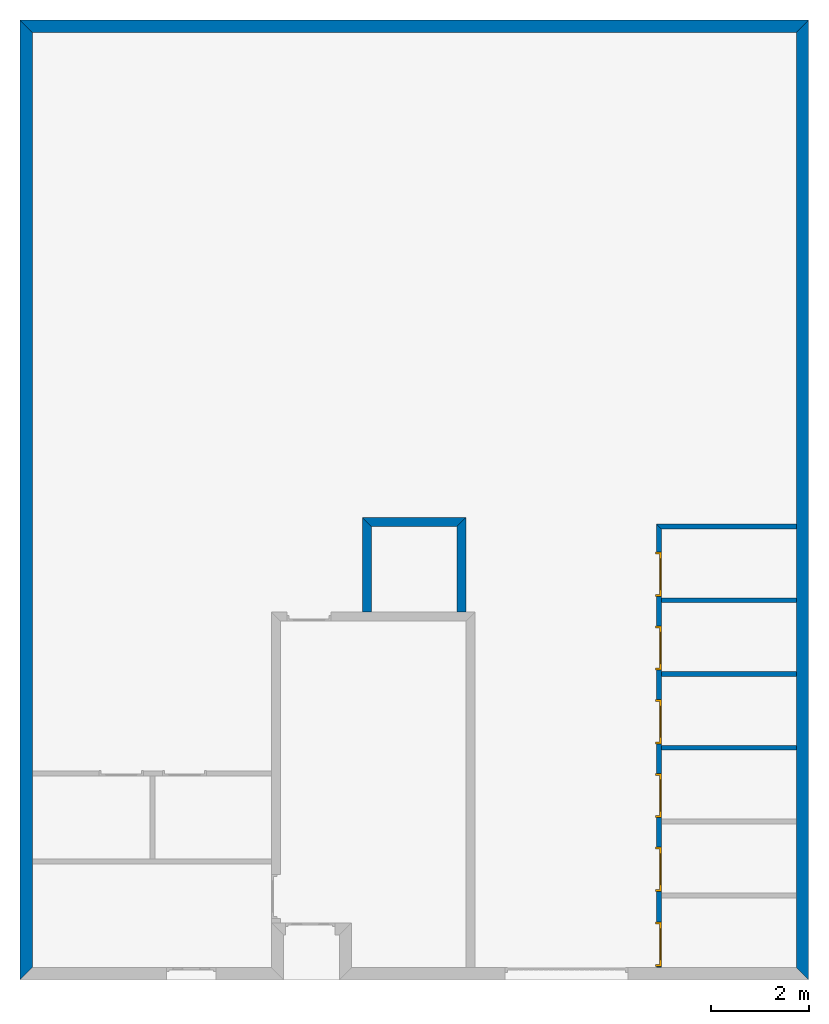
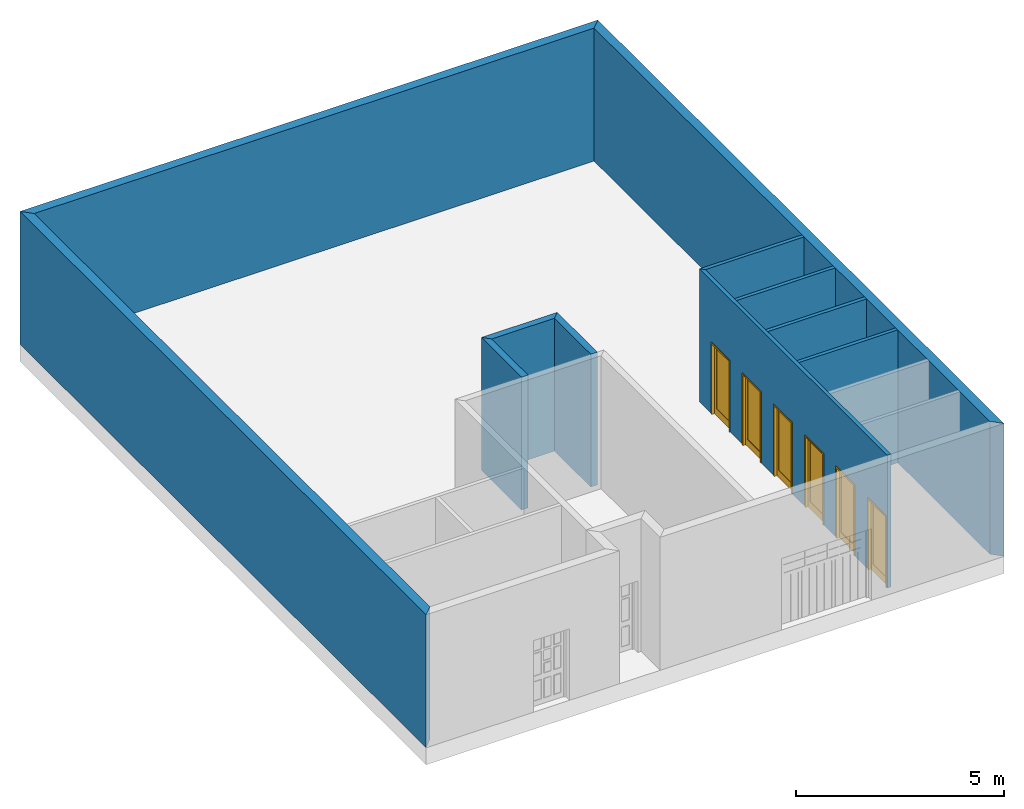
# One storey, part 2 of 5: 11 walls, 6 doors, 6 openings.
"""IFC2X3 building model written with IfcOpenShell, lengths in metres."""

from ifc_helpers import new_model, entity, si_unit, converted_unit, direction, frame, frame_2d, origin_with_axes, place, context, project, spatial, polyline, rectangle, outline, extrude, faceted_brep, source, transform, mapped, material, layer, layer_set, layer_usage, type_object, element, fill, save


model = new_model("IFC2X3")

# Units and contexts
context_of_model = context(None, 3, precision=1e-05, world=origin_with_axes(), true_north=direction((6.123234e-17, 1.0)))
plan_context = context("Plan", 3, precision=1e-05, world=origin_with_axes(), true_north=direction((6.123234e-17, 1.0)))
model_context = context("Model", 3, precision=1e-05, world=origin_with_axes(), true_north=direction((6.123234e-17, 1.0)))
ifc_project = project(units=[si_unit("LENGTHUNIT", "METRE"), si_unit("AREAUNIT", "SQUARE_METRE"), si_unit("VOLUMEUNIT", "CUBIC_METRE"), converted_unit("PLANEANGLEUNIT", "DEGREE", entity("IfcPlaneAngleMeasure", 0.017453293), si_unit("PLANEANGLEUNIT", "RADIAN"), dimensions=[0, 0, 0, 0, 0, 0, 0]), si_unit("SOLIDANGLEUNIT", "STERADIAN"), si_unit("MASSUNIT", "GRAM"), si_unit("TIMEUNIT", "SECOND"), si_unit("THERMODYNAMICTEMPERATUREUNIT", "DEGREE_CELSIUS"), si_unit("LUMINOUSINTENSITYUNIT", "LUMEN")], contexts=[context_of_model, plan_context, model_context])

# Site, building, storey
site_placement = place(None, origin_with_axes())
site = spatial("IfcSite", under=ifc_project, at=site_placement, Name="Por defecto Sitio", CompositionType="ELEMENT")
building_placement = place(site_placement, origin_with_axes())
building = spatial("IfcBuilding", under=site, at=building_placement, Name="Por defecto Edificio", CompositionType="ELEMENT")
storey_placement = place(building_placement, origin_with_axes())
storey = spatial("IfcBuildingStorey", under=building, at=storey_placement, Name="Planta Baja", CompositionType="ELEMENT", Elevation=0.0)

# Walls
ifc_material_1 = material(Name="Doble 1:4")
ifc_layer_1 = layer(ifc_material_1, 0.25, ventilated="UNKNOWN")
ifc_layer_set_1 = layer_set([ifc_layer_1], Name="Doble 1:4")
ifc_layer_usage_1 = layer_usage(ifc_layer_set_1, "AXIS2", "NEGATIVE", 0.0)
wall_type_1 = type_object("IfcWallType", Name="Doble 1:4", PredefinedType="NOTDEFINED")
wall_1_placement = place(storey_placement, frame((0.0, 0.0, 0.0), z_axis=(0.0, 0.0, 1.0), x_axis=(0.0, 1.0, 0.0)))
element("IfcWallStandardCase", 1, at=wall_1_placement, inside=storey, type_object=wall_type_1, material=ifc_layer_usage_1, Name="Muro-001", context=context_of_model, shape_type="SweptSolid", body=[
    extrude(outline(polyline([(0.25, -0.25), (19.27, -0.25), (19.52, 0.0), (0.0, 0.0), (0.25, -0.25)])), origin_with_axes(), (0.0, 0.0, 1.0), 3.9),
])
ifc_layer_usage_2 = layer_usage(ifc_layer_set_1, "AXIS2", "NEGATIVE", 0.0)
wall_2_placement = place(storey_placement, frame((16.03417, 19.52, 0.0), z_axis=(0.0, 0.0, 1.0), x_axis=(0.0, -1.0, 0.0)))
element("IfcWallStandardCase", 2, at=wall_2_placement, inside=storey, type_object=wall_type_1, material=ifc_layer_usage_2, Name="Muro-003", context=context_of_model, shape_type="SweptSolid", body=[
    extrude(outline(polyline([(0.25, -0.25), (19.27, -0.25), (19.52, 0.0), (0.0, 0.0), (0.25, -0.25)])), origin_with_axes(), (0.0, 0.0, 1.0), 3.9),
])
ifc_material_2 = material(Name="Ladrillo común")
ifc_layer_2 = layer(ifc_material_2, 0.25, ventilated="UNKNOWN")
ifc_layer_set_2 = layer_set([ifc_layer_2], Name="Ladrillo común")
ifc_layer_usage_3 = layer_usage(ifc_layer_set_2, "AXIS2", "NEGATIVE", 0.0)
wall_type_2 = type_object("IfcWallType", Name="Ladrillo común", PredefinedType="NOTDEFINED")
wall_3_placement = place(storey_placement, frame((0.0, 19.52, 0.0), z_axis=(0.0, 0.0, 1.0), x_axis=(1.0, 0.0, 0.0)))
element("IfcWallStandardCase", 3, at=wall_3_placement, inside=storey, type_object=wall_type_2, material=ifc_layer_usage_3, Name="Muro-002", context=context_of_model, shape_type="SweptSolid", body=[
    extrude(outline(polyline([(0.25, -0.25), (15.78417, -0.25), (16.03417, 0.0), (0.0, 0.0), (0.25, -0.25)])), origin_with_axes(), (0.0, 0.0, 1.0), 3.9),
])
ifc_layer_3 = layer(ifc_material_2, 0.18, ventilated="UNKNOWN")
ifc_layer_set_3 = layer_set([ifc_layer_3], Name="Ladrillo común")
ifc_layer_usage_4 = layer_usage(ifc_layer_set_3, "AXIS2", "NEGATIVE", 0.0)
wall_type_3 = type_object("IfcWallType", Name="Ladrillo común", PredefinedType="NOTDEFINED")
wall_4_placement = place(storey_placement, frame((9.065, 9.4007615, 0.0), z_axis=(0.0, 0.0, 1.0), x_axis=(0.0, -1.0, 0.0)))
element("IfcWallStandardCase", 4, at=wall_4_placement, inside=storey, type_object=wall_type_3, material=ifc_layer_usage_4, Name="Muro-012", context=context_of_model, shape_type="SweptSolid", body=[
    extrude(outline(polyline([(0.18, -0.18), (1.9231052, -0.18), (1.9231052, 0.0), (0.0, 0.0), (0.18, -0.18)])), origin_with_axes(), (0.0, 0.0, 1.0), 3.9),
])
ifc_layer_usage_5 = layer_usage(ifc_layer_set_3, "AXIS2", "NEGATIVE", 0.0)
wall_5_placement = place(storey_placement, frame((6.965, 7.2976562, 0.0), z_axis=(0.0, 0.0, 1.0), x_axis=(0.0, 1.0, 0.0)))
element("IfcWallStandardCase", 5, at=wall_5_placement, inside=storey, type_object=wall_type_3, material=ifc_layer_usage_5, Name="Muro-011", context=context_of_model, shape_type="SweptSolid", body=[
    extrude(outline(polyline([(0.18, -0.18), (1.9231052, -0.18), (2.1031052, 0.0), (0.18, 8.8817842e-16), (0.18, -0.18)])), origin_with_axes(), (0.0, 0.0, 1.0), 3.9),
])
ifc_layer_usage_6 = layer_usage(ifc_layer_set_3, "AXIS2", "NEGATIVE", 0.0)
wall_6_placement = place(storey_placement, frame((6.965, 9.4007615, 0.0), z_axis=(0.0, 0.0, 1.0), x_axis=(1.0, 0.0, 0.0)))
element("IfcWallStandardCase", 6, at=wall_6_placement, inside=storey, type_object=wall_type_3, material=ifc_layer_usage_6, Name="Muro-012", context=context_of_model, shape_type="SweptSolid", body=[
    extrude(outline(polyline([(0.18, -0.18), (1.92, -0.18), (2.1, 0.0), (-8.8817842e-16, 0.0), (0.18, -0.18)])), origin_with_axes(), (0.0, 0.0, 1.0), 3.9),
])
ifc_layer_4 = layer(ifc_material_2, 0.1, ventilated="UNKNOWN")
ifc_layer_set_4 = layer_set([ifc_layer_4], Name="Ladrillo común")
ifc_layer_usage_7 = layer_usage(ifc_layer_set_4, "AXIS2", "POSITIVE", 0.0)
wall_type_4 = type_object("IfcWallType", Name="Ladrillo común", PredefinedType="NOTDEFINED")
wall_7_placement = place(storey_placement, frame((13.039317, 7.6720269, 0.0), z_axis=(0.0, 0.0, 1.0), x_axis=(1.0, 0.0, 0.0)))
element("IfcWallStandardCase", 7, at=wall_7_placement, inside=storey, type_object=wall_type_4, material=ifc_layer_usage_7, Name="Muro-024", context=context_of_model, shape_type="SweptSolid", body=[
    extrude(outline(polyline([(1.7763568e-14, 0.0), (2.7448525, 0.0), (2.7448525, 0.1), (1.7763568e-14, 0.1), (1.7763568e-14, 0.0)])), origin_with_axes(), (0.0, 0.0, 1.0), 3.9),
])
ifc_layer_usage_8 = layer_usage(ifc_layer_set_4, "AXIS2", "POSITIVE", 0.0)
wall_8_placement = place(storey_placement, frame((13.039317, 6.1720269, 0.0), z_axis=(0.0, 0.0, 1.0), x_axis=(1.0, 0.0, 0.0)))
element("IfcWallStandardCase", 8, at=wall_8_placement, inside=storey, type_object=wall_type_4, material=ifc_layer_usage_8, Name="Muro-023", context=context_of_model, shape_type="SweptSolid", body=[
    extrude(outline(polyline([(3.7303494e-14, 0.0), (2.7448525, 0.0), (2.7448525, 0.1), (3.5527137e-14, 0.1), (3.7303494e-14, 0.0)])), origin_with_axes(), (0.0, 0.0, 1.0), 3.9),
])
ifc_layer_usage_9 = layer_usage(ifc_layer_set_4, "AXIS2", "POSITIVE", 0.0)
wall_9_placement = place(storey_placement, frame((13.039317, 4.6720269, 0.0), z_axis=(0.0, 0.0, 1.0), x_axis=(1.0, 0.0, 0.0)))
element("IfcWallStandardCase", 9, at=wall_9_placement, inside=storey, type_object=wall_type_4, material=ifc_layer_usage_9, Name="Muro-022", context=context_of_model, shape_type="SweptSolid", body=[
    extrude(outline(polyline([(5.5067062e-14, 0.0), (2.7448525, 0.0), (2.7448525, 0.1), (5.5067062e-14, 0.1), (5.5067062e-14, 0.0)])), origin_with_axes(), (0.0, 0.0, 1.0), 3.9),
])

# Wall, openings, doors
ifc_layer_usage_10 = layer_usage(ifc_layer_set_4, "AXIS2", "POSITIVE", 0.0)
wall_10_placement = place(storey_placement, frame((13.039317, -7.7997469e-14, 0.0), z_axis=(0.0, 0.0, 1.0), x_axis=(0.0, 1.0, 0.0)))
wall_10 = element("IfcWallStandardCase", 10, at=wall_10_placement, inside=storey, type_object=wall_type_4, material=ifc_layer_usage_10, Name="Muro-018", context=context_of_model, shape_type="SweptSolid", body=[
    extrude(outline(polyline([(0.25, 0.0), (9.1720269, 0.0), (9.2720269, 0.1), (0.25, 0.1), (0.25, 0.0)])), origin_with_axes(), (0.0, 0.0, 1.0), 3.9),
])
opening_1_placement = place(wall_10_placement, frame((0.72816578, 0.0, 0.0), z_axis=(0.0, 0.0, 1.0), x_axis=(1.0, 0.0, 0.0)))
opening_1 = element("IfcOpeningElement", 11, at=opening_1_placement, cuts=wall_10, ObjectType="Opening", context=model_context, shape_type="SweptSolid", body=[
    extrude(rectangle(XDim=0.9, YDim=2.1, at=frame_2d((-7.8020923e-14, 1.05), x_axis=(-1.0, 0.0))), frame((0.0, 0.0, 0.0), z_axis=(0.0, 1.0, 0.0), x_axis=(-1.0, 0.0, 0.0)), (0.0, 0.0, 1.0), 0.1),
])
opening_2_placement = place(wall_10_placement, frame((2.2501927, 0.0, 0.0), z_axis=(0.0, 0.0, 1.0), x_axis=(1.0, 0.0, 0.0)))
opening_2 = element("IfcOpeningElement", 12, at=opening_2_placement, cuts=wall_10, ObjectType="Opening", context=model_context, shape_type="SweptSolid", body=[
    extrude(rectangle(XDim=0.9, YDim=2.1, at=frame_2d((-7.8270723e-14, 1.05), x_axis=(-1.0, 0.0))), frame((0.0, 0.0, 0.0), z_axis=(0.0, 1.0, 0.0), x_axis=(-1.0, 0.0, 0.0)), (0.0, 0.0, 1.0), 0.1),
])
opening_3_placement = place(wall_10_placement, frame((3.7501927, 0.0, 0.0), z_axis=(0.0, 0.0, 1.0), x_axis=(1.0, 0.0, 0.0)))
opening_3 = element("IfcOpeningElement", 13, at=opening_3_placement, cuts=wall_10, ObjectType="Opening", context=model_context, shape_type="SweptSolid", body=[
    extrude(rectangle(XDim=0.9, YDim=2.1, at=frame_2d((-7.7937656e-14, 1.05), x_axis=(-1.0, 0.0))), frame((0.0, 0.0, 0.0), z_axis=(0.0, 1.0, 0.0), x_axis=(-1.0, 0.0, 0.0)), (0.0, 0.0, 1.0), 0.1),
])
opening_4_placement = place(wall_10_placement, frame((5.2501927, 0.0, 0.0), z_axis=(0.0, 0.0, 1.0), x_axis=(1.0, 0.0, 0.0)))
opening_4 = element("IfcOpeningElement", 14, at=opening_4_placement, cuts=wall_10, ObjectType="Opening", context=model_context, shape_type="SweptSolid", body=[
    extrude(rectangle(XDim=0.9, YDim=2.1, at=frame_2d((-7.8159701e-14, 1.05), x_axis=(-1.0, 0.0))), frame((0.0, 0.0, 0.0), z_axis=(0.0, 1.0, 0.0), x_axis=(-1.0, 0.0, 0.0)), (0.0, 0.0, 1.0), 0.1),
])
opening_5_placement = place(wall_10_placement, frame((6.7501927, 0.0, 0.0), z_axis=(0.0, 0.0, 1.0), x_axis=(1.0, 0.0, 0.0)))
opening_5 = element("IfcOpeningElement", 15, at=opening_5_placement, cuts=wall_10, ObjectType="Opening", context=model_context, shape_type="SweptSolid", body=[
    extrude(rectangle(XDim=0.9, YDim=2.1, at=frame_2d((-7.8159701e-14, 1.05), x_axis=(-1.0, 0.0))), frame((0.0, 0.0, 0.0), z_axis=(0.0, 1.0, 0.0), x_axis=(-1.0, 0.0, 0.0)), (0.0, 0.0, 1.0), 0.1),
])
opening_6_placement = place(wall_10_placement, frame((8.2501927, 0.0, 0.0), z_axis=(0.0, 0.0, 1.0), x_axis=(1.0, 0.0, 0.0)))
opening_6 = element("IfcOpeningElement", 16, at=opening_6_placement, cuts=wall_10, ObjectType="Opening", context=model_context, shape_type="SweptSolid", body=[
    extrude(rectangle(XDim=0.9, YDim=2.1, at=frame_2d((-7.7715612e-14, 1.05), x_axis=(-1.0, 0.0))), frame((0.0, 0.0, 0.0), z_axis=(0.0, 1.0, 0.0), x_axis=(-1.0, 0.0, 0.0)), (0.0, 0.0, 1.0), 0.1),
])
door_style_1 = type_object("IfcDoorStyle", Name="P1 12", ConstructionType="NOTDEFINED", OperationType="SINGLE_SWING_RIGHT", ParameterTakesPrecedence=False, Sizeable=False)
shared_shape = source(origin_with_axes(), model_context, "Body", "Brep", [
    faceted_brep([(0.04, 0.075, -2.4492936e-18), (0.04, 0.075, 2.06), (0.04, 0.0, 2.06), (0.04, 0.0, -7.0417191e-18), (0.028, 0.075, 2.06), (0.028, 0.075, -2.4492936e-18), (0.028, 0.115, 2.06), (0.0, 0.115, 2.06), (0.0, 0.0, 2.06), (0.0, 0.0, 0.0), (0.0, 0.115, 3.3744595e-33), (0.028, 0.115, 3.2707143e-33)], [[[0, 1, 2, 3]], [[4, 1, 0, 5]], [[4, 6, 7, 8, 2, 1]], [[9, 3, 2, 8]], [[5, 0, 3, 9, 10, 11]], [[6, 4, 5, 11]], [[6, 11, 10, 7]], [[8, 7, 10, 9]]]),
    faceted_brep([(0.872, 0.075, 2.06), (0.86, 0.075, 2.06), (0.86, 0.0, 2.06), (0.9, 0.0, 2.06), (0.9, 0.115, 2.06), (0.872, 0.115, 2.06), (0.872, 0.075, -2.4492936e-18), (0.86, 0.075, -2.4492936e-18), (0.86, 0.0, -7.0417191e-18), (0.9, 0.0, -7.0417191e-18), (0.9, 0.115, -3.3744595e-33), (0.872, 0.115, -3.1644931e-33)], [[[0, 1, 2, 3, 4, 5]], [[1, 0, 6, 7]], [[1, 7, 8, 2]], [[8, 9, 3, 2]], [[9, 10, 4, 3]], [[11, 5, 4, 10]], [[0, 5, 11, 6]], [[6, 11, 10, 9, 8, 7]]]),
    faceted_brep([(0.028, 0.115, 2.072), (0.028, 0.115, 2.06), (0.0, 0.115, 2.06), (0.0, 0.115, 2.1), (0.9, 0.115, 2.1), (0.9, 0.115, 2.06), (0.872, 0.115, 2.06), (0.872, 0.115, 2.072), (0.028, 0.075, 2.072), (0.028, 0.075, 2.06), (0.04, 0.075, 2.06), (0.04, 0.0, 2.06), (0.0, 0.0, 2.06), (0.0, 0.0, 2.1), (0.9, 0.0, 2.1), (0.9, 0.0, 2.06), (0.872, 0.075, 2.06), (0.86, 0.0, 2.06), (0.86, 0.075, 2.06), (0.872, 0.075, 2.072)], [[[0, 1, 2, 3, 4, 5, 6, 7]], [[1, 0, 8, 9]], [[9, 10, 11, 12, 2, 1]], [[13, 3, 2, 12]], [[14, 4, 3, 13]], [[15, 5, 4, 14]], [[16, 6, 5, 15, 17, 18]], [[7, 6, 16, 19]], [[0, 7, 19, 8]], [[16, 18, 10, 9, 8, 19]], [[10, 18, 17, 11]], [[14, 13, 12, 11, 17, 15]]]),
    faceted_brep([(0.872, 0.115, 0.2), (0.872, 0.075, 0.2), (0.772, 0.075, 0.2), (0.772, 0.115, 0.2), (0.872, 0.115, 1.972), (0.872, 0.075, 1.972), (0.772, 0.075, 1.972), (0.772, 0.115, 1.972)], [[[0, 1, 2, 3]], [[4, 5, 1, 0]], [[1, 5, 6, 2]], [[3, 2, 6, 7]], [[0, 3, 7, 4]], [[7, 6, 5, 4]]]),
    faceted_brep([(0.028, 0.115, 0.2), (0.028, 0.075, 0.2), (0.028, 0.075, 1.972), (0.028, 0.115, 1.972), (0.128, 0.115, 0.2), (0.128, 0.075, 0.2), (0.128, 0.075, 1.972), (0.128, 0.115, 1.972)], [[[0, 1, 2, 3]], [[4, 5, 1, 0]], [[1, 5, 6, 2]], [[3, 2, 6, 7]], [[0, 3, 7, 4]], [[7, 6, 5, 4]]]),
    faceted_brep([(0.872, 0.115, -3.1644931e-33), (0.872, 0.075, -2.4492936e-18), (0.028, 0.075, -2.4492936e-18), (0.028, 0.115, 3.1644931e-33), (0.872, 0.115, 0.2), (0.872, 0.075, 0.2), (0.772, 0.075, 0.2), (0.128, 0.075, 0.2), (0.028, 0.075, 0.2), (0.028, 0.115, 0.2), (0.128, 0.115, 0.2), (0.772, 0.115, 0.2)], [[[0, 1, 2, 3]], [[4, 5, 1, 0]], [[1, 5, 6, 7, 8, 2]], [[3, 2, 8, 9]], [[0, 3, 9, 10, 11, 4]], [[11, 6, 5, 4]], [[10, 7, 6, 11]], [[9, 8, 7, 10]]]),
    faceted_brep([(0.872, 0.115, 2.072), (0.872, 0.075, 2.072), (0.872, 0.075, 1.972), (0.872, 0.115, 1.972), (0.028, 0.115, 2.072), (0.028, 0.075, 2.072), (0.028, 0.075, 1.972), (0.128, 0.075, 1.972), (0.772, 0.075, 1.972), (0.772, 0.115, 1.972), (0.128, 0.115, 1.972), (0.028, 0.115, 1.972)], [[[0, 1, 2, 3]], [[4, 5, 1, 0]], [[1, 5, 6, 7, 8, 2]], [[3, 2, 8, 9]], [[0, 3, 9, 10, 11, 4]], [[11, 6, 5, 4]], [[10, 7, 6, 11]], [[9, 8, 7, 10]]]),
    faceted_brep([(0.772, 0.101, 0.2), (0.772, 0.089, 0.2), (0.128, 0.089, 0.2), (0.128, 0.101, 0.2), (0.772, 0.101, 1.972), (0.772, 0.089, 1.972), (0.128, 0.089, 1.972), (0.128, 0.101, 1.972)], [[[0, 1, 2, 3]], [[4, 5, 1, 0]], [[1, 5, 6, 2]], [[3, 2, 6, 7]], [[0, 3, 7, 4]], [[7, 6, 5, 4]]]),
])
door_1_placement = place(opening_1_placement, frame((0.45, 0.115, 0.0), z_axis=(0.0, 0.0, 1.0), x_axis=(-1.0, 0.0, 0.0)))
door_1 = element("IfcDoor", 17, at=door_1_placement, inside=storey, type_object=door_style_1, Name="P09", OverallHeight=2.1, OverallWidth=0.9, context=model_context, shape_type="MappedRepresentation", body=[
    mapped(shared_shape, transform((0.0, 0.0, 0.0), scale=1.0)),
])
fill(opening_1, door_1)
door_style_2 = type_object("IfcDoorStyle", Name="P1 12", ConstructionType="NOTDEFINED", OperationType="SINGLE_SWING_RIGHT", ParameterTakesPrecedence=False, Sizeable=False)
door_2_placement = place(opening_2_placement, frame((0.45, 0.115, 0.0), z_axis=(0.0, 0.0, 1.0), x_axis=(-1.0, 0.0, 0.0)))
door_2 = element("IfcDoor", 18, at=door_2_placement, inside=storey, type_object=door_style_2, Name="P09", OverallHeight=2.1, OverallWidth=0.9, context=model_context, shape_type="MappedRepresentation", body=[
    mapped(shared_shape, transform((0.0, 0.0, 0.0), scale=1.0)),
])
fill(opening_2, door_2)
door_style_3 = type_object("IfcDoorStyle", Name="P1 12", ConstructionType="NOTDEFINED", OperationType="SINGLE_SWING_RIGHT", ParameterTakesPrecedence=False, Sizeable=False)
door_3_placement = place(opening_3_placement, frame((0.45, 0.115, 0.0), z_axis=(0.0, 0.0, 1.0), x_axis=(-1.0, 0.0, 0.0)))
door_3 = element("IfcDoor", 19, at=door_3_placement, inside=storey, type_object=door_style_3, Name="P09", OverallHeight=2.1, OverallWidth=0.9, context=model_context, shape_type="MappedRepresentation", body=[
    mapped(shared_shape, transform((0.0, 0.0, 0.0), scale=1.0)),
])
fill(opening_3, door_3)
door_style_4 = type_object("IfcDoorStyle", Name="P1 12", ConstructionType="NOTDEFINED", OperationType="SINGLE_SWING_RIGHT", ParameterTakesPrecedence=False, Sizeable=False)
door_4_placement = place(opening_4_placement, frame((0.45, 0.115, 0.0), z_axis=(0.0, 0.0, 1.0), x_axis=(-1.0, 0.0, 0.0)))
door_4 = element("IfcDoor", 20, at=door_4_placement, inside=storey, type_object=door_style_4, Name="P09", OverallHeight=2.1, OverallWidth=0.9, context=model_context, shape_type="MappedRepresentation", body=[
    mapped(shared_shape, transform((0.0, 0.0, 0.0), scale=1.0)),
])
fill(opening_4, door_4)
door_style_5 = type_object("IfcDoorStyle", Name="P1 12", ConstructionType="NOTDEFINED", OperationType="SINGLE_SWING_RIGHT", ParameterTakesPrecedence=False, Sizeable=False)
door_5_placement = place(opening_5_placement, frame((0.45, 0.115, 0.0), z_axis=(0.0, 0.0, 1.0), x_axis=(-1.0, 0.0, 0.0)))
door_5 = element("IfcDoor", 21, at=door_5_placement, inside=storey, type_object=door_style_5, Name="P09", OverallHeight=2.1, OverallWidth=0.9, context=model_context, shape_type="MappedRepresentation", body=[
    mapped(shared_shape, transform((0.0, 0.0, 0.0), scale=1.0)),
])
fill(opening_5, door_5)
door_style_6 = type_object("IfcDoorStyle", Name="P1 12", ConstructionType="NOTDEFINED", OperationType="SINGLE_SWING_RIGHT", ParameterTakesPrecedence=False, Sizeable=False)
door_6_placement = place(opening_6_placement, frame((0.45, 0.115, 0.0), z_axis=(0.0, 0.0, 1.0), x_axis=(-1.0, 0.0, 0.0)))
door_6 = element("IfcDoor", 22, at=door_6_placement, inside=storey, type_object=door_style_6, Name="P09", OverallHeight=2.1, OverallWidth=0.9, context=model_context, shape_type="MappedRepresentation", body=[
    mapped(shared_shape, transform((0.0, 0.0, 0.0), scale=1.0)),
])
fill(opening_6, door_6)

# Wall
ifc_layer_usage_11 = layer_usage(ifc_layer_set_4, "AXIS2", "POSITIVE", 0.0)
wall_11_placement = place(storey_placement, frame((13.039317, 9.1720269, 0.0), z_axis=(0.0, 0.0, 1.0), x_axis=(1.0, 0.0, 0.0)))
element("IfcWallStandardCase", 23, at=wall_11_placement, inside=storey, type_object=wall_type_4, material=ifc_layer_usage_11, Name="Muro-019", context=context_of_model, shape_type="SweptSolid", body=[
    extrude(outline(polyline([(0.0, 0.0), (2.7448525, 0.0), (2.7448525, 0.1), (-0.1, 0.1), (0.0, 0.0)])), origin_with_axes(), (0.0, 0.0, 1.0), 3.9),
])

save(model, "model.ifc")
